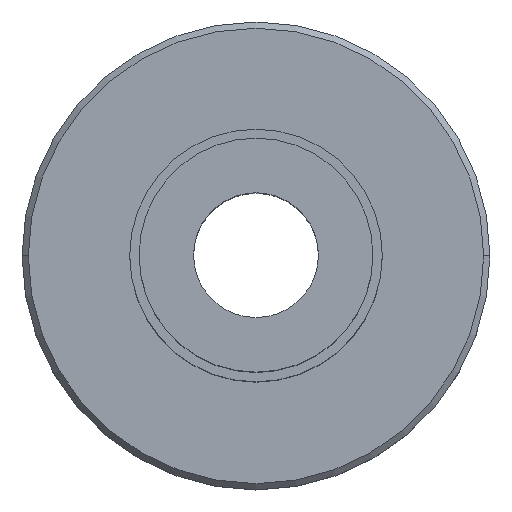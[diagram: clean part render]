
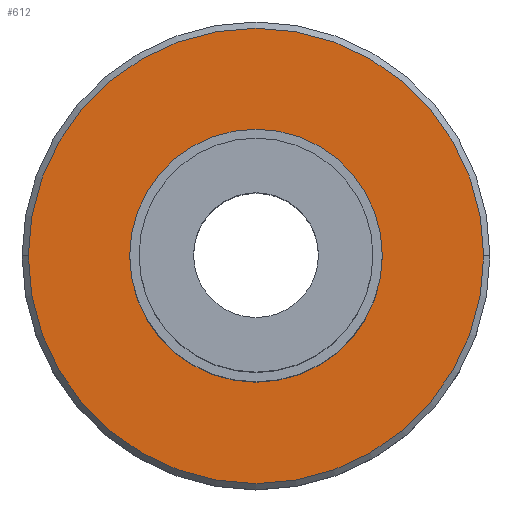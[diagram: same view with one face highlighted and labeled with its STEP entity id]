
A CAD part, top view. The second image highlights one B-rep face of the part: STEP entity #612.
In plain terms, the highlighted planar face has unit normal (0, 0, 1).
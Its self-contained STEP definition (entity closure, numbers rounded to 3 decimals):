
#8 = CIRCLE ( 'NONE', #602, 4.05 ) ;
#10 = EDGE_CURVE ( 'NONE', #578, #649, #8, .T. ) ;
#35 = EDGE_LOOP ( 'NONE', ( #711, #205 ) ) ;
#58 = EDGE_LOOP ( 'NONE', ( #149, #453 ) ) ;
#73 = CARTESIAN_POINT ( 'NONE',  ( -7.3, 0., 2.5 ) ) ;
#83 = PLANE ( 'NONE',  #346 ) ;
#112 = DIRECTION ( 'NONE',  ( 1., 0., 0. ) ) ;
#121 = AXIS2_PLACEMENT_3D ( 'NONE', #609, #444, #112 ) ;
#128 = FACE_OUTER_BOUND ( 'NONE', #58, .T. ) ;
#132 = DIRECTION ( 'NONE',  ( 1., 0., 0. ) ) ;
#142 = AXIS2_PLACEMENT_3D ( 'NONE', #623, #619, #132 ) ;
#149 = ORIENTED_EDGE ( 'NONE', *, *, #585, .T. ) ;
#157 = CARTESIAN_POINT ( 'NONE',  ( 7.3, 0., 2.5 ) ) ;
#205 = ORIENTED_EDGE ( 'NONE', *, *, #515, .F. ) ;
#235 = CARTESIAN_POINT ( 'NONE',  ( -4.05, 0., 2.5 ) ) ;
#259 = VERTEX_POINT ( 'NONE', #157 ) ;
#262 = DIRECTION ( 'NONE',  ( 1., 0., 0. ) ) ;
#275 = CIRCLE ( 'NONE', #121, 4.05 ) ;
#296 = FACE_BOUND ( 'NONE', #35, .T. ) ;
#327 = DIRECTION ( 'NONE',  ( 1., 0., 0. ) ) ;
#331 = EDGE_CURVE ( 'NONE', #259, #687, #400, .T. ) ;
#346 = AXIS2_PLACEMENT_3D ( 'NONE', #511, #557, #455 ) ;
#372 = DIRECTION ( 'NONE',  ( 0., 0., 1. ) ) ;
#390 = DIRECTION ( 'NONE',  ( 0., 0., 1. ) ) ;
#400 = CIRCLE ( 'NONE', #510, 7.3 ) ;
#444 = DIRECTION ( 'NONE',  ( 0., 0., 1. ) ) ;
#452 = CIRCLE ( 'NONE', #142, 7.3 ) ;
#453 = ORIENTED_EDGE ( 'NONE', *, *, #331, .T. ) ;
#455 = DIRECTION ( 'NONE',  ( 1., 0., 0. ) ) ;
#510 = AXIS2_PLACEMENT_3D ( 'NONE', #555, #390, #327 ) ;
#511 = CARTESIAN_POINT ( 'NONE',  ( 0., 0., 2.5 ) ) ;
#515 = EDGE_CURVE ( 'NONE', #649, #578, #275, .T. ) ;
#534 = CARTESIAN_POINT ( 'NONE',  ( 0., 0., 2.5 ) ) ;
#555 = CARTESIAN_POINT ( 'NONE',  ( 0., 0., 2.5 ) ) ;
#557 = DIRECTION ( 'NONE',  ( 0., 0., 1. ) ) ;
#578 = VERTEX_POINT ( 'NONE', #235 ) ;
#585 = EDGE_CURVE ( 'NONE', #687, #259, #452, .T. ) ;
#602 = AXIS2_PLACEMENT_3D ( 'NONE', #534, #372, #262 ) ;
#609 = CARTESIAN_POINT ( 'NONE',  ( 0., 0., 2.5 ) ) ;
#612 = ADVANCED_FACE ( 'NONE', ( #128, #296 ), #83, .T. ) ;
#619 = DIRECTION ( 'NONE',  ( 0., 0., 1. ) ) ;
#623 = CARTESIAN_POINT ( 'NONE',  ( 0., 0., 2.5 ) ) ;
#626 = CARTESIAN_POINT ( 'NONE',  ( 4.05, 0., 2.5 ) ) ;
#649 = VERTEX_POINT ( 'NONE', #626 ) ;
#687 = VERTEX_POINT ( 'NONE', #73 ) ;
#711 = ORIENTED_EDGE ( 'NONE', *, *, #10, .F. ) ;
